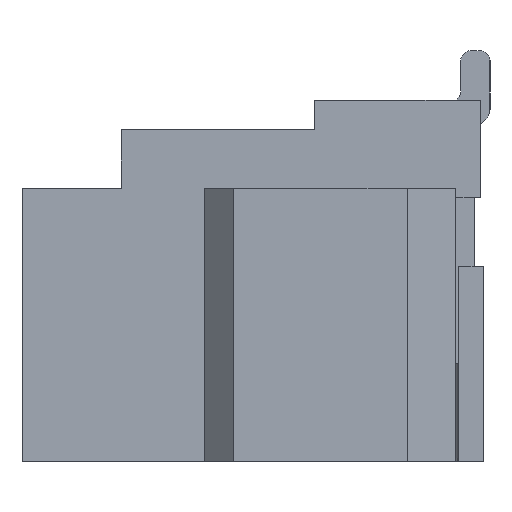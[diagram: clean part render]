
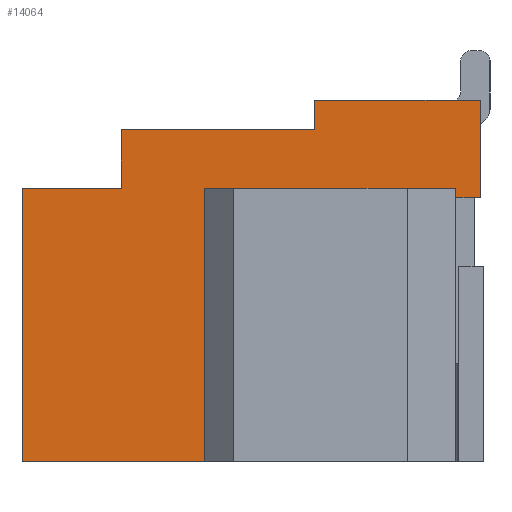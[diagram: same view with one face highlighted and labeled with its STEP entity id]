
A CAD part, left-side view. The second image highlights one B-rep face of the part: STEP entity #14064.
In plain terms, the highlighted planar face has unit normal (-1, 0, 0).
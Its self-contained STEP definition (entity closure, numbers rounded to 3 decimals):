
#75=DIRECTION('',(0.,0.,-1.));
#76=VECTOR('',#75,0.3);
#77=CARTESIAN_POINT('',(-8.85,1.8,-0.51));
#78=LINE('',#77,#76);
#99=DIRECTION('',(0.,1.,0.));
#100=VECTOR('',#99,1.7);
#101=CARTESIAN_POINT('',(-8.85,0.1,-0.51));
#102=LINE('',#101,#100);
#839=DIRECTION('',(0.,1.,0.));
#840=VECTOR('',#839,1.87);
#841=CARTESIAN_POINT('',(-8.85,2.93,-4.21));
#842=LINE('',#841,#840);
#843=DIRECTION('',(0.,0.,1.));
#844=VECTOR('',#843,0.1);
#845=CARTESIAN_POINT('',(-8.85,0.35,-1.51));
#846=LINE('',#845,#844);
#847=DIRECTION('',(0.,0.,-1.));
#848=VECTOR('',#847,2.8);
#849=CARTESIAN_POINT('',(-8.85,2.93,-1.41));
#850=LINE('',#849,#848);
#851=DIRECTION('',(0.,0.,-1.));
#852=VECTOR('',#851,2.8);
#853=CARTESIAN_POINT('',(-8.85,4.8,-1.41));
#854=LINE('',#853,#852);
#1071=DIRECTION('',(0.,1.,0.));
#1072=VECTOR('',#1071,1.98);
#1073=CARTESIAN_POINT('',(-8.85,1.8,-0.81));
#1074=LINE('',#1073,#1072);
#1087=DIRECTION('',(0.,0.,-1.));
#1088=VECTOR('',#1087,0.6);
#1089=CARTESIAN_POINT('',(-8.85,3.78,-0.81));
#1090=LINE('',#1089,#1088);
#1095=DIRECTION('',(0.,1.,0.));
#1096=VECTOR('',#1095,1.02);
#1097=CARTESIAN_POINT('',(-8.85,3.78,-1.41));
#1098=LINE('',#1097,#1096);
#1111=DIRECTION('',(0.,0.,1.));
#1112=VECTOR('',#1111,1.);
#1113=CARTESIAN_POINT('',(-8.85,0.1,-1.51));
#1114=LINE('',#1113,#1112);
#1123=DIRECTION('',(0.,-1.,0.));
#1124=VECTOR('',#1123,0.25);
#1125=CARTESIAN_POINT('',(-8.85,0.35,-1.51));
#1126=LINE('',#1125,#1124);
#1143=DIRECTION('',(0.,-1.,0.));
#1144=VECTOR('',#1143,2.58);
#1145=CARTESIAN_POINT('',(-8.85,2.93,-1.41));
#1146=LINE('',#1145,#1144);
#10695=CARTESIAN_POINT('',(-8.85,2.93,-4.21));
#10696=CARTESIAN_POINT('',(-8.85,4.8,-4.21));
#10697=VERTEX_POINT('',#10695);
#10698=VERTEX_POINT('',#10696);
#10719=CARTESIAN_POINT('',(-8.85,0.35,-1.51));
#10720=CARTESIAN_POINT('',(-8.85,0.35,-1.41));
#10721=VERTEX_POINT('',#10719);
#10722=VERTEX_POINT('',#10720);
#10897=CARTESIAN_POINT('',(-8.85,2.93,-1.41));
#10898=VERTEX_POINT('',#10897);
#10907=CARTESIAN_POINT('',(-8.85,4.8,-1.41));
#10908=VERTEX_POINT('',#10907);
#10931=CARTESIAN_POINT('',(-8.85,1.8,-0.51));
#10932=CARTESIAN_POINT('',(-8.85,1.8,-0.81));
#10933=VERTEX_POINT('',#10931);
#10934=VERTEX_POINT('',#10932);
#11287=CARTESIAN_POINT('',(-8.85,0.1,-0.51));
#11288=VERTEX_POINT('',#11287);
#11613=CARTESIAN_POINT('',(-8.85,0.1,-1.51));
#11614=VERTEX_POINT('',#11613);
#11619=CARTESIAN_POINT('',(-8.85,3.78,-0.81));
#11620=VERTEX_POINT('',#11619);
#11631=CARTESIAN_POINT('',(-8.85,3.78,-1.41));
#11632=VERTEX_POINT('',#11631);
#14038=CARTESIAN_POINT('',(-8.85,2.45,-2.36));
#14039=DIRECTION('',(1.,0.,0.));
#14040=DIRECTION('',(0.,-1.,0.));
#14041=AXIS2_PLACEMENT_3D('',#14038,#14039,#14040);
#14042=PLANE('',#14041);
#14043=ORIENTED_EDGE('',*,*,#12363,.T.);
#14045=ORIENTED_EDGE('',*,*,#14044,.F.);
#14047=ORIENTED_EDGE('',*,*,#14046,.F.);
#14049=ORIENTED_EDGE('',*,*,#14048,.F.);
#14051=ORIENTED_EDGE('',*,*,#14050,.F.);
#14052=ORIENTED_EDGE('',*,*,#12529,.F.);
#14053=ORIENTED_EDGE('',*,*,#12842,.F.);
#14055=ORIENTED_EDGE('',*,*,#14054,.F.);
#14057=ORIENTED_EDGE('',*,*,#14056,.F.);
#14058=ORIENTED_EDGE('',*,*,#13092,.T.);
#14060=ORIENTED_EDGE('',*,*,#14059,.F.);
#14061=ORIENTED_EDGE('',*,*,#14027,.T.);
#14062=EDGE_LOOP('',(#14043,#14045,#14047,#14049,#14051,#14052,#14053,#14055,
#14057,#14058,#14060,#14061));
#14063=FACE_OUTER_BOUND('',#14062,.F.);
#12363=EDGE_CURVE('',#10697,#10698,#842,.T.);
#12529=EDGE_CURVE('',#10933,#10934,#78,.T.);
#12842=EDGE_CURVE('',#11288,#10933,#102,.T.);
#13092=EDGE_CURVE('',#10721,#10722,#846,.T.);
#14027=EDGE_CURVE('',#10898,#10697,#850,.T.);
#14044=EDGE_CURVE('',#10908,#10698,#854,.T.);
#14046=EDGE_CURVE('',#11632,#10908,#1098,.T.);
#14048=EDGE_CURVE('',#11620,#11632,#1090,.T.);
#14050=EDGE_CURVE('',#10934,#11620,#1074,.T.);
#14054=EDGE_CURVE('',#11614,#11288,#1114,.T.);
#14056=EDGE_CURVE('',#10721,#11614,#1126,.T.);
#14059=EDGE_CURVE('',#10898,#10722,#1146,.T.);
#14064=ADVANCED_FACE('',(#14063),#14042,.F.);
